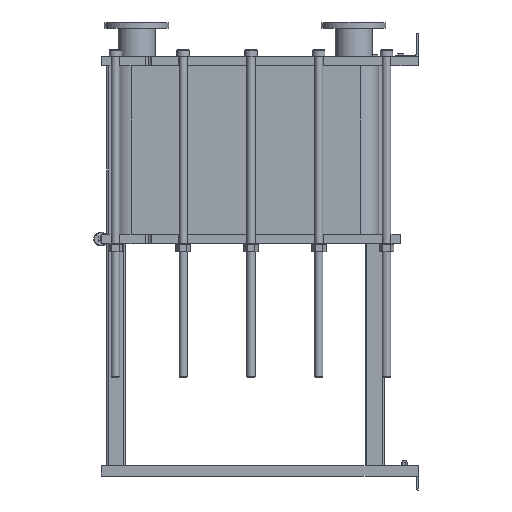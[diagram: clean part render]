
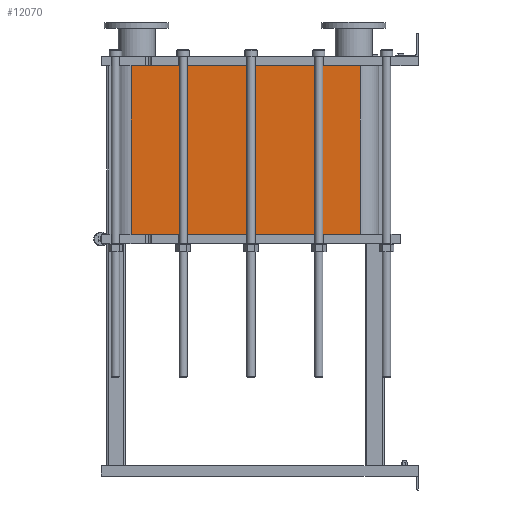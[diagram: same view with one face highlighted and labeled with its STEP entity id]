
A CAD part, left-side view. The second image highlights one B-rep face of the part: STEP entity #12070.
In plain terms, the highlighted planar face has unit normal (-1, 0, 0).
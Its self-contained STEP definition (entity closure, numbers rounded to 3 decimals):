
#1064=LINE('',#21140,#2164);
#1065=LINE('',#21144,#2165);
#1066=LINE('',#21146,#2166);
#1067=LINE('',#21147,#2167);
#2164=VECTOR('',#15790,10.);
#2165=VECTOR('',#15795,10.);
#2166=VECTOR('',#15796,10.);
#2167=VECTOR('',#15797,10.);
#3304=FACE_OUTER_BOUND('',#4091,.T.);
#4091=EDGE_LOOP('',(#9793,#9794,#9795,#9796));
#5677=VERTEX_POINT('',#21137);
#5678=VERTEX_POINT('',#21139);
#5679=VERTEX_POINT('',#21143);
#5680=VERTEX_POINT('',#21145);
#7118=EDGE_CURVE('',#5678,#5677,#1064,.T.);
#7120=EDGE_CURVE('',#5677,#5679,#1065,.T.);
#7121=EDGE_CURVE('',#5680,#5679,#1066,.T.);
#7122=EDGE_CURVE('',#5680,#5678,#1067,.T.);
#9793=ORIENTED_EDGE('',*,*,#7120,.T.);
#9794=ORIENTED_EDGE('',*,*,#7121,.F.);
#9795=ORIENTED_EDGE('',*,*,#7122,.T.);
#9796=ORIENTED_EDGE('',*,*,#7118,.T.);
#11441=PLANE('',#13191);
#12070=ADVANCED_FACE('',(#3304),#11441,.T.);
#13191=AXIS2_PLACEMENT_3D('',#21142,#15793,#15794);
#15790=DIRECTION('',(0.,0.,-1.));
#15793=DIRECTION('center_axis',(-1.,0.,0.));
#15794=DIRECTION('ref_axis',(0.,1.,0.));
#15795=DIRECTION('',(0.,-1.,0.));
#15796=DIRECTION('',(0.,0.,-1.));
#15797=DIRECTION('',(0.,1.,0.));
#21137=CARTESIAN_POINT('',(-248.152,1243.818,-731.4));
#21139=CARTESIAN_POINT('',(-248.152,1243.818,0.));
#21140=CARTESIAN_POINT('',(-248.152,1243.818,0.));
#21142=CARTESIAN_POINT('Origin',(-248.152,251.818,0.));
#21143=CARTESIAN_POINT('',(-248.152,251.818,-731.4));
#21144=CARTESIAN_POINT('',(-248.152,499.818,-731.4));
#21145=CARTESIAN_POINT('',(-248.152,251.818,0.));
#21146=CARTESIAN_POINT('',(-248.152,251.818,0.));
#21147=CARTESIAN_POINT('',(-248.152,251.818,0.));
